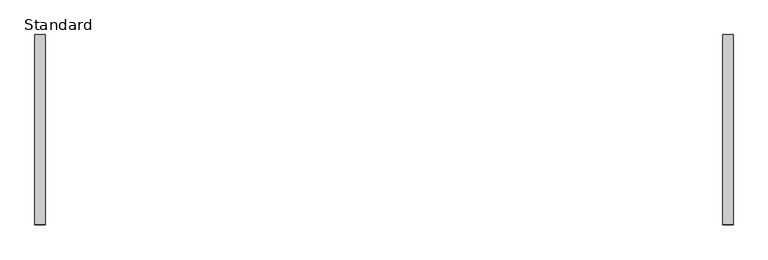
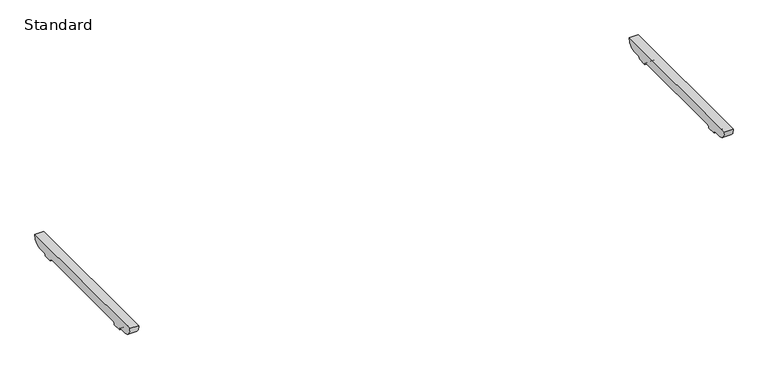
"""IFC4 building model written with IfcOpenShell, lengths in millimetres: furniture geometry, BDG_BossDesign_Tbls_AgentTables4Legs_Nested : Standard."""

from ifc_helpers import new_model, si_unit, point, frame, frame_2d, origin, place, context, project, spatial, polyline, circle_curve, trimmed, segment, composite_curve, outline, extrude, source, transform, mapped, element, save


def standard_b130652b(model_context):
    return source(origin(), model_context, "Body", "SweptSolid", [
        extrude(outline(composite_curve([segment(polyline([(380.5450184, 672.0), (342.7000122, 672.0)]), True, "CONTINUOUS"), segment(trimmed(circle_curve(frame_2d((342.7000122, 660.0)), 12.0), [point((342.7000122, 672.0))], [point((330.7000122, 660.0))], True, "CARTESIAN"), True, "CONTINUOUS"), segment(polyline([(330.7000122, 660.0), (285.7000122, 660.0)]), True, "CONTINUOUS"), segment(trimmed(circle_curve(frame_2d((273.7000122, 660.0)), 12.0), [point((285.7000122, 660.0))], [point((273.7000122, 672.0))], True, "CARTESIAN"), True, "CONTINUOUS"), segment(polyline([(273.7000122, 672.0), (-273.7000122, 672.0)]), True, "CONTINUOUS"), segment(trimmed(circle_curve(frame_2d((-273.7000122, 660.0)), 12.0), [point((-273.7000122, 672.0))], [point((-285.7000122, 660.0))], True, "CARTESIAN"), True, "CONTINUOUS"), segment(polyline([(-285.7000122, 660.0), (-330.7000122, 660.0)]), True, "CONTINUOUS"), segment(trimmed(circle_curve(frame_2d((-342.7000122, 660.0)), 12.0), [point((-330.7000122, 660.0))], [point((-342.7000122, 672.0))], True, "CARTESIAN"), True, "CONTINUOUS"), segment(polyline([(-342.7000122, 672.0), (-380.5450184, 672.0)]), True, "CONTINUOUS"), segment(trimmed(circle_curve(frame_2d((-378.2220439, 716.5514119)), 44.6119324), [point((-380.5450184, 672.0))], [point((-422.5, 722.0))], False, "CARTESIAN"), True, "CONTINUOUS"), segment(polyline([(-422.5, 722.0), (422.5, 722.0)]), True, "CONTINUOUS"), segment(trimmed(circle_curve(frame_2d((378.2220439, 716.5514119)), 44.6119324), [point((422.5, 722.0))], [point((380.5450184, 672.0))], False, "CARTESIAN"), True, "CONTINUOUS")], self_intersect=False)), frame((1505.0, 0.0, 0.0), z_axis=(1.0, 0.0, 0.0), x_axis=(0.0, 1.0, 0.0)), (0.0, 0.0, 1.0), 45.0),
        extrude(outline(composite_curve([segment(polyline([(380.5450184, 672.0), (342.7000122, 672.0)]), True, "CONTINUOUS"), segment(trimmed(circle_curve(frame_2d((342.7000122, 660.0)), 12.0), [point((342.7000122, 672.0))], [point((330.7000122, 660.0))], True, "CARTESIAN"), True, "CONTINUOUS"), segment(polyline([(330.7000122, 660.0), (285.7000122, 660.0)]), True, "CONTINUOUS"), segment(trimmed(circle_curve(frame_2d((273.7000122, 660.0)), 12.0), [point((285.7000122, 660.0))], [point((273.7000122, 672.0))], True, "CARTESIAN"), True, "CONTINUOUS"), segment(polyline([(273.7000122, 672.0), (-273.7000122, 672.0)]), True, "CONTINUOUS"), segment(trimmed(circle_curve(frame_2d((-273.7000122, 660.0)), 12.0), [point((-273.7000122, 672.0))], [point((-285.7000122, 660.0))], True, "CARTESIAN"), True, "CONTINUOUS"), segment(polyline([(-285.7000122, 660.0), (-330.7000122, 660.0)]), True, "CONTINUOUS"), segment(trimmed(circle_curve(frame_2d((-342.7000122, 660.0)), 12.0), [point((-330.7000122, 660.0))], [point((-342.7000122, 672.0))], True, "CARTESIAN"), True, "CONTINUOUS"), segment(polyline([(-342.7000122, 672.0), (-380.5450184, 672.0)]), True, "CONTINUOUS"), segment(trimmed(circle_curve(frame_2d((-378.2220439, 716.5514119)), 44.6119324), [point((-380.5450184, 672.0))], [point((-422.5, 722.0))], False, "CARTESIAN"), True, "CONTINUOUS"), segment(polyline([(-422.5, 722.0), (422.5, 722.0)]), True, "CONTINUOUS"), segment(trimmed(circle_curve(frame_2d((378.2220439, 716.5514119)), 44.6119324), [point((422.5, 722.0))], [point((380.5450184, 672.0))], False, "CARTESIAN"), True, "CONTINUOUS")], self_intersect=False)), frame((-1550.0, 0.0, 0.0), z_axis=(1.0, 0.0, 0.0), x_axis=(0.0, 1.0, 0.0)), (0.0, 0.0, 1.0), 45.0),
    ])


if __name__ == "__main__":
    model = new_model("IFC4")
    model_context = context("Model", 3, world=origin())
    ifc_project = project(units=[si_unit("LENGTHUNIT", "METRE", prefix="MILLI")], contexts=[model_context])
    site = spatial("IfcSite", under=ifc_project)
    building = spatial("IfcBuilding", under=site)
    placement = place(None, origin())
    standard_shape = standard_b130652b(model_context)
    element("IfcFurniture", 1, ObjectType="BDG_BossDesign_Tbls_AgentTables4Legs_Nested : Standard", at=placement, inside=building, context=model_context, shape_type="MappedRepresentation", body=[
        mapped(standard_shape, transform((0.0, 0.0, 0.0), x_axis=(1.0, 0.0, 0.0), y_axis=(0.0, 1.0, 0.0), z_axis=(0.0, 0.0, 1.0))),
    ])
    save(model, "model.ifc")
